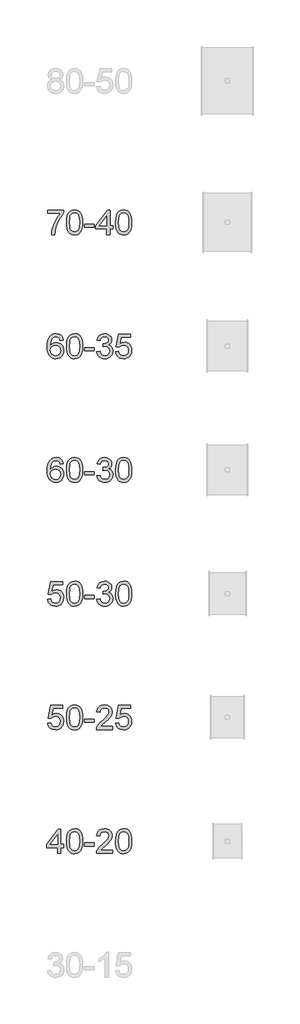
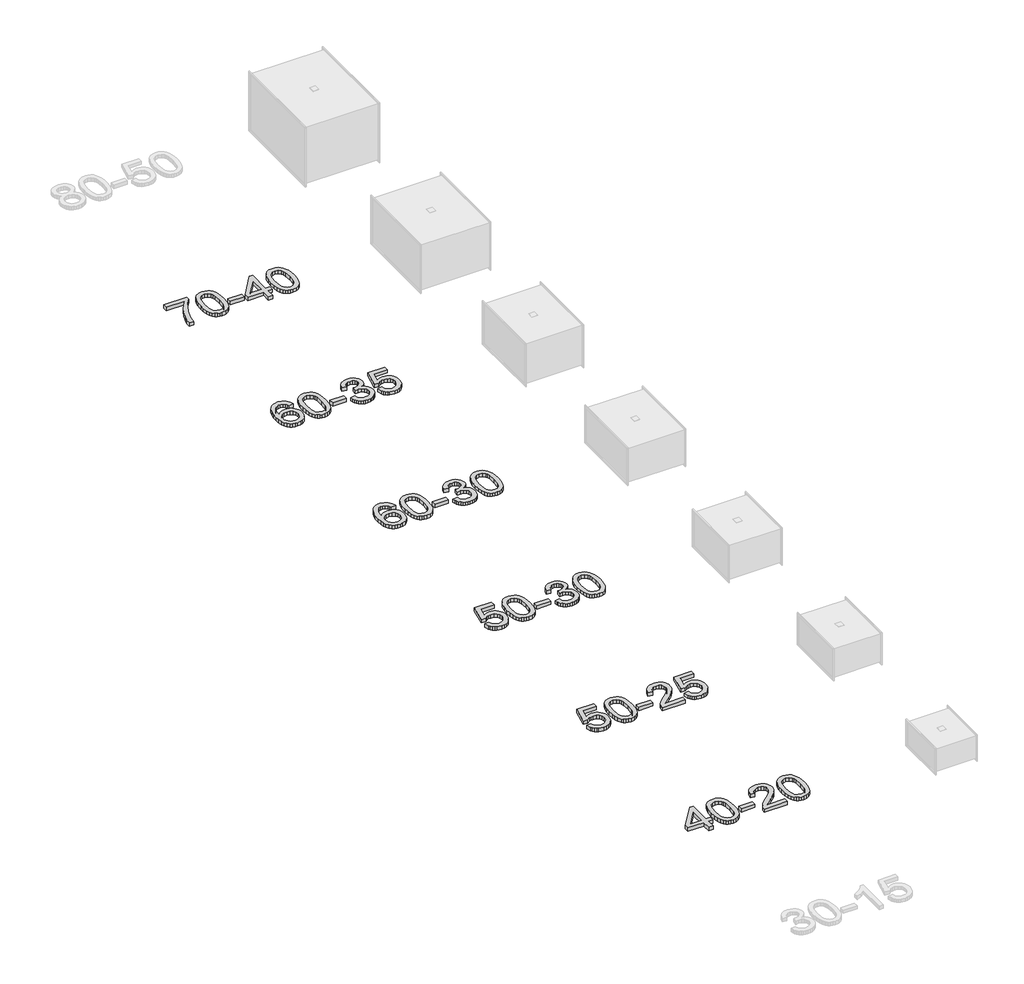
# One storey, part 5 of 9: 6 proxies.
"""IFC4 building model written with IfcOpenShell, lengths in millimetres."""

from ifc_helpers import new_model, si_unit, origin, origin_with_axes, place, context, project, spatial, polyline, outline, extrude, element, save

model = new_model("IFC4")

# Units and contexts
model_context = context("Model", 3, world=origin())
ifc_project = project(units=[si_unit("LENGTHUNIT", "METRE", prefix="MILLI")], contexts=[model_context])

# Site, building, storey
site = spatial("IfcSite", under=ifc_project)
building = spatial("IfcBuilding", under=site)
storey = spatial("IfcBuildingStorey", under=building, Name="KORF_Уровень 1", Elevation=0.0)

# Proxies
placement = place(None, origin())
element("IfcBuildingElementProxy", 1, Name="Текст модели 1", ObjectType="Текст модели 1", at=placement, inside=storey, context=model_context, shape_type="SweptSolid", body=[
    extrude(outline(polyline([(-11660.9256351, -10255.6389201), (-11660.9256351, -10217.9678038), (-11463.1522745, -10217.9678038), (-11463.1522745, -10248.428433), (-11491.3412324, -10284.1037895), (-11519.2542787, -10329.4728365), (-11543.8747813, -10380.3969017), (-11562.1861076, -10432.7373126), (-11571.1624283, -10471.898351), (-11576.1656234, -10514.6278447), (-11613.8367397, -10514.6278447), (-11609.7624466, -10475.7979001), (-11598.8639425, -10429.6471038), (-11581.435533, -10380.7279955), (-11557.7715236, -10333.5931149), (-11530.1435858, -10290.9831828), (-11500.8233908, -10255.6389201), (-11660.9256351, -10255.6389201)])), origin_with_axes(), (0.0, 0.0, 1.0), 30.0),
    extrude(outline(polyline([(-11430.1900477, -10366.3714007), (-11427.4217357, -10318.132874), (-11419.1167996, -10279.6616144), (-11405.358013, -10250.3690105), (-11386.2281493, -10229.6664513), (-11361.5892527, -10217.3607985), (-11331.3033674, -10213.2589143), (-11308.0900135, -10215.6869354), (-11287.3046808, -10222.9709989), (-11269.9222565, -10234.8259962), (-11256.917628, -10250.9668188), (-11247.0951787, -10271.2555108), (-11239.2592922, -10295.5541166), (-11234.1273384, -10326.4102189), (-11232.4166871, -10366.3714007), (-11235.157408, -10414.3340158), (-11243.3795706, -10452.7133049), (-11257.0555837, -10482.0334999), (-11276.1578563, -10502.8188327), (-11300.8519352, -10515.2072589), (-11331.3033674, -10519.3367343), (-11352.0519119, -10517.5433095), (-11370.4460117, -10512.1630353), (-11386.4856667, -10503.1959117), (-11400.1708769, -10490.6419386), (-11413.3042641, -10467.9482181), (-11422.685255, -10439.6718882), (-11428.3138495, -10405.8129491), (-11430.1900477, -10366.3714007)]), holes=[polyline([(-11392.5189314, -10366.2978243), (-11388.1043475, -10425.5544166), (-11382.5861175, -10445.8224153), (-11374.8605956, -10459.8502156), (-11355.1421207, -10476.2117674), (-11331.3033674, -10481.6656179), (-11307.4646141, -10476.1933733), (-11287.7461392, -10459.7766392), (-11280.0206173, -10445.7258463), (-11274.5023873, -10425.4624461), (-11270.0878034, -10366.2978243), (-11274.3552345, -10308.3748041), (-11279.6895235, -10288.1734841), (-11287.157528, -10273.8122907), (-11306.8392147, -10256.6505956), (-11331.7448258, -10250.9300306), (-11355.3260617, -10255.9700139), (-11374.2719844, -10271.0899639), (-11382.2550237, -10286.7249487), (-11387.9571947, -10307.804587), (-11392.5189314, -10366.2978243)])]), origin_with_axes(), (0.0, 0.0, 1.0), 30.0),
    extrude(outline(polyline([(-11208.8722394, -10425.1589435), (-11208.8722394, -10387.4878272), (-11091.1500009, -10387.4878272), (-11091.1500009, -10425.1589435), (-11208.8722394, -10425.1589435)])), origin_with_axes(), (0.0, 0.0, 1.0), 30.0),
    extrude(outline(polyline([(-10935.7566462, -10514.6278447), (-10935.7566462, -10443.9945016), (-11072.3144428, -10443.9945016), (-11072.3144428, -10406.3233853), (-10926.3388671, -10217.9678038), (-10898.0855299, -10217.9678038), (-10898.0855299, -10406.3233853), (-10860.4144136, -10406.3233853), (-10860.4144136, -10443.9945016), (-10898.0855299, -10443.9945016), (-10898.0855299, -10514.6278447), (-10935.7566462, -10514.6278447)]), holes=[polyline([(-10935.7566462, -10406.3233853), (-10935.7566462, -10289.9255221), (-11025.9613114, -10406.3233853), (-10935.7566462, -10406.3233853)])]), origin_with_axes(), (0.0, 0.0, 1.0), 30.0),
    extrude(outline(polyline([(-10827.4521868, -10366.3714007), (-10824.6838748, -10318.132874), (-10816.3789388, -10279.6616144), (-10802.6201521, -10250.3690105), (-10783.4902884, -10229.6664513), (-10758.8513918, -10217.3607985), (-10728.5655065, -10213.2589143), (-10705.3521526, -10215.6869354), (-10684.5668199, -10222.9709989), (-10667.1843956, -10234.8259962), (-10654.1797671, -10250.9668188), (-10644.3573178, -10271.2555108), (-10636.5214313, -10295.5541166), (-10631.3894775, -10326.4102189), (-10629.6788262, -10366.3714007), (-10632.4195471, -10414.3340158), (-10640.6417097, -10452.7133049), (-10654.3177228, -10482.0334999), (-10673.4199954, -10502.8188327), (-10698.1140744, -10515.2072589), (-10728.5655065, -10519.3367343), (-10749.314051, -10517.5433095), (-10767.7081508, -10512.1630353), (-10783.7478058, -10503.1959117), (-10797.433016, -10490.6419386), (-10810.5664032, -10467.9482181), (-10819.9473941, -10439.6718882), (-10825.5759886, -10405.8129491), (-10827.4521868, -10366.3714007)]), holes=[polyline([(-10789.7810705, -10366.2978243), (-10785.3664866, -10425.5544166), (-10779.8482566, -10445.8224153), (-10772.1227347, -10459.8502156), (-10752.4042598, -10476.2117674), (-10728.5655065, -10481.6656179), (-10704.7267532, -10476.1933733), (-10685.0082783, -10459.7766392), (-10677.2827564, -10445.7258463), (-10671.7645264, -10425.4624461), (-10667.3499425, -10366.2978243), (-10671.6173736, -10308.3748041), (-10676.9516626, -10288.1734841), (-10684.4196671, -10273.8122907), (-10704.1013538, -10256.6505956), (-10729.0069649, -10250.9300306), (-10752.5882008, -10255.9700139), (-10771.5341235, -10271.0899639), (-10779.5171628, -10286.7249487), (-10785.2193338, -10307.804587), (-10789.7810705, -10366.2978243)])]), origin_with_axes(), (0.0, 0.0, 1.0), 30.0),
])
element("IfcBuildingElementProxy", 2, Name="Текст модели 1", ObjectType="Текст модели 1", at=placement, inside=storey, context=model_context, shape_type="SweptSolid", body=[
    extrude(outline(polyline([(-11467.861164, -11807.2908439), (-11505.5322803, -11811.9997335), (-11511.6023332, -11793.3297222), (-11519.8061017, -11780.5826111), (-11536.8942204, -11768.8287813), (-11557.5507944, -11764.9108381), (-11575.0619774, -11767.1917064), (-11591.5430908, -11774.0343116), (-11605.6973506, -11788.4460887), (-11617.2580423, -11808.2841253), (-11625.0663376, -11836.3443245), (-11627.9634083, -11875.4225894), (-11612.8526554, -11857.7918448), (-11594.7436641, -11845.3666304), (-11574.6481102, -11837.9997935), (-11553.5776689, -11835.5441811), (-11535.4778747, -11837.2226428), (-11518.7760321, -11842.2580276), (-11503.4721411, -11850.6503356), (-11489.5662017, -11862.3995668), (-11478.0101086, -11876.8067454), (-11469.7557563, -11893.1728957), (-11464.8031449, -11911.4980176), (-11463.1522745, -11931.7821111), (-11466.2608773, -11958.7570584), (-11475.5866859, -11983.763837), (-11490.357148, -12004.972234), (-11509.7997115, -12020.5520365), (-11533.0314595, -12030.1261654), (-11559.1694752, -12033.3175418), (-11581.6263718, -12031.2022203), (-11601.908166, -12024.8562559), (-11620.014858, -12014.2796485), (-11635.9464476, -11999.4723982), (-11648.9349813, -11979.8091056), (-11658.2125054, -11954.6643712), (-11663.7790198, -11924.0381951), (-11665.6345246, -11887.9305773), (-11663.5743854, -11847.4497622), (-11657.3939679, -11812.9010443), (-11647.0932721, -11784.2844236), (-11632.6722978, -11761.5999001), (-11617.0419116, -11746.5673221), (-11598.9191248, -11735.8297664), (-11578.3039375, -11729.3872329), (-11555.1963497, -11727.2397218), (-11522.1421524, -11732.5556166), (-11495.6730428, -11748.5033011), (-11477.1317903, -11773.8319765), (-11467.861164, -11807.2908439)]), holes=[polyline([(-11627.9634083, -11931.1934999), (-11625.7837075, -11947.8861454), (-11619.244605, -11963.8246329), (-11609.091062, -11977.5282372), (-11596.0680393, -11987.5162334), (-11580.3502811, -11993.6138774), (-11562.1125312, -11995.6464254), (-11537.2529053, -11991.4341766), (-11517.7091744, -11978.7974301), (-11505.0448367, -11958.9318023), (-11500.8233908, -11933.0329099), (-11504.9896544, -11908.173284), (-11517.4884452, -11889.2181642), (-11537.3632699, -11877.2160142), (-11563.6576356, -11873.2152975), (-11588.4804732, -11877.2160142), (-11609.2382148, -11889.2181642), (-11623.2821099, -11907.7134316), (-11627.9634083, -11931.1934999)])]), origin_with_axes(), (0.0, 0.0, 1.0), 30.0),
    extrude(outline(polyline([(-11430.1900477, -11880.3522082), (-11427.4217357, -11832.1136815), (-11419.1167996, -11793.6424219), (-11405.358013, -11764.349818), (-11386.2281493, -11743.6472588), (-11361.5892527, -11731.341606), (-11331.3033674, -11727.2397218), (-11308.0900135, -11729.6677429), (-11287.3046808, -11736.9518064), (-11269.9222565, -11748.8068037), (-11256.917628, -11764.9476263), (-11247.0951787, -11785.2363183), (-11239.2592922, -11809.5349241), (-11234.1273384, -11840.3910264), (-11232.4166871, -11880.3522082), (-11235.157408, -11928.3148233), (-11243.3795706, -11966.6941124), (-11257.0555837, -11996.0143074), (-11276.1578563, -12016.7996402), (-11300.8519352, -12029.1880664), (-11331.3033674, -12033.3175418), (-11352.0519119, -12031.524117), (-11370.4460117, -12026.1438428), (-11386.4856667, -12017.1767192), (-11400.1708769, -12004.6227461), (-11413.3042641, -11981.9290256), (-11422.685255, -11953.6526957), (-11428.3138495, -11919.7937566), (-11430.1900477, -11880.3522082)]), holes=[polyline([(-11392.5189314, -11880.2786318), (-11388.1043475, -11939.5352241), (-11382.5861175, -11959.8032228), (-11374.8605956, -11973.8310231), (-11355.1421207, -11990.1925749), (-11331.3033674, -11995.6464254), (-11307.4646141, -11990.1741808), (-11287.7461392, -11973.7574467), (-11280.0206173, -11959.7066538), (-11274.5023873, -11939.4432536), (-11270.0878034, -11880.2786318), (-11274.3552345, -11822.3556116), (-11279.6895235, -11802.1542916), (-11287.157528, -11787.7930982), (-11306.8392147, -11770.6314031), (-11331.7448258, -11764.9108381), (-11355.3260617, -11769.9508214), (-11374.2719844, -11785.0707714), (-11382.2550237, -11800.7057562), (-11387.9571947, -11821.7853945), (-11392.5189314, -11880.2786318)])]), origin_with_axes(), (0.0, 0.0, 1.0), 30.0),
    extrude(outline(polyline([(-11208.8722394, -11939.139751), (-11208.8722394, -11901.4686347), (-11091.1500009, -11901.4686347), (-11091.1500009, -11939.139751), (-11208.8722394, -11939.139751)])), origin_with_axes(), (0.0, 0.0, 1.0), 30.0),
    extrude(outline(polyline([(-11058.1877742, -11948.5575301), (-11020.5166579, -11943.8486405), (-11012.0829631, -11967.5218469), (-10999.7313251, -11983.5063196), (-10982.8547386, -11992.611399), (-10960.8461983, -11995.6464254), (-10935.0208822, -11991.4709648), (-10915.0816781, -11978.9445829), (-10902.3345669, -11960.2561775), (-10898.0855299, -11937.5946466), (-10902.2977787, -11916.0827469), (-10914.9345253, -11898.6359433), (-10934.064389, -11887.0752516), (-10957.7559895, -11883.2216877), (-10984.1699168, -11887.3419661), (-10979.976062, -11849.6708498), (-10973.9427973, -11850.1123082), (-10951.3732369, -11847.4083755), (-10931.1949094, -11839.2965775), (-10916.9578762, -11825.5745791), (-10912.2121985, -11806.0400451), (-10915.6518951, -11789.7704639), (-10925.9709851, -11776.5726973), (-10941.7163345, -11767.8263029), (-10961.4348094, -11764.9108381), (-10981.1900726, -11767.853894), (-10997.3400922, -11776.6830619), (-11009.1307101, -11791.3983417), (-11015.8077683, -11811.9997335), (-11053.4788846, -11807.2908439), (-11042.3872425, -11773.4640945), (-11022.6503734, -11748.2089955), (-10995.647835, -11732.4820402), (-10962.7591846, -11727.2397218), (-10939.0767812, -11729.8240928), (-10917.3257582, -11737.5772058), (-10898.9868408, -11749.8092822), (-10885.5407538, -11765.8305431), (-10877.2910001, -11784.2890222), (-10874.5410822, -11803.8327532), (-10877.1530444, -11822.0429119), (-10884.9889309, -11838.5608135), (-10897.9383771, -11852.6322998), (-10915.8910184, -11863.5032128), (-10892.3097826, -11873.0313565), (-10874.8353878, -11889.2549524), (-10864.0196571, -11911.291084), (-10860.4144136, -11938.2568342), (-10862.2170353, -11957.3683039), (-10867.6249007, -11974.9714573), (-10876.6380096, -11991.0662946), (-10889.256362, -12005.6528157), (-10904.6292309, -12017.7561334), (-10921.9058891, -12026.4013602), (-10941.0863366, -12031.5884964), (-10962.1705734, -12033.3175418), (-10981.2268608, -12031.8414152), (-10998.590891, -12027.4130357), (-11014.262664, -12020.0324032), (-11028.2421798, -12009.6995177), (-11039.9638198, -11997.0213844), (-11048.8619656, -11982.6050087), (-11054.936617, -11966.4503906), (-11058.1877742, -11948.5575301)])), origin_with_axes(), (0.0, 0.0, 1.0), 30.0),
    extrude(outline(polyline([(-10827.4521868, -11948.5575301), (-10789.7810705, -11943.8486405), (-10782.864889, -11966.4641862), (-10770.7983595, -11982.660191), (-10753.6366645, -11992.3998668), (-10731.4349861, -11995.6464254), (-10704.4324476, -11991.130674), (-10684.1989379, -11977.5834195), (-10671.5621913, -11956.5681605), (-10667.3499425, -11929.6483955), (-10671.2954769, -11904.301326), (-10683.1320801, -11884.9139449), (-10702.9517226, -11872.6082922), (-10730.8463749, -11868.5064079), (-10749.120913, -11870.1434828), (-10763.9189662, -11875.0547074), (-10785.072181, -11892.0508556), (-10822.7432973, -11887.3419661), (-10789.7810705, -11731.9486113), (-10643.8054948, -11731.9486113), (-10643.8054948, -11769.6197276), (-10759.3204413, -11769.6197276), (-10775.4336727, -11852.6139057), (-10748.5231047, -11836.2799451), (-10720.3249498, -11830.8352916), (-10701.9791346, -11832.5229503), (-10685.1278399, -11837.5859262), (-10669.7710659, -11846.0242195), (-10655.9088125, -11857.8378301), (-10644.4331935, -11872.3047895), (-10636.2363228, -11888.7031295), (-10631.3182003, -11907.0328499), (-10629.6788262, -11927.2939507), (-10635.5833322, -11964.9650671), (-10642.9639647, -11981.7588801), (-10653.2968503, -11997.1915298), (-10668.9502292, -12012.99666), (-10687.2155702, -12024.2860388), (-10708.0928735, -12031.059666), (-10731.5821389, -12033.3175418), (-10768.5818705, -12027.5142033), (-10784.2605413, -12020.2600302), (-10798.0584154, -12010.1041879), (-10809.5386329, -11997.552514), (-10818.264334, -11983.1108465), (-10827.4521868, -11948.5575301)])), origin_with_axes(), (0.0, 0.0, 1.0), 30.0),
])
element("IfcBuildingElementProxy", 3, Name="Текст модели 1", ObjectType="Текст модели 1", at=placement, inside=storey, context=model_context, shape_type="SweptSolid", body=[
    extrude(outline(polyline([(-11467.861164, -13321.2716514), (-11505.5322803, -13325.980541), (-11511.6023332, -13307.3105297), (-11519.8061017, -13294.5634186), (-11536.8942204, -13282.8095888), (-11557.5507944, -13278.8916456), (-11575.0619774, -13281.1725139), (-11591.5430908, -13288.0151191), (-11605.6973506, -13302.4268962), (-11617.2580423, -13322.2649328), (-11625.0663376, -13350.325132), (-11627.9634083, -13389.4033969), (-11612.8526554, -13371.7726523), (-11594.7436641, -13359.3474379), (-11574.6481102, -13351.980601), (-11553.5776689, -13349.5249886), (-11535.4778747, -13351.2034503), (-11518.7760321, -13356.2388351), (-11503.4721411, -13364.6311431), (-11489.5662017, -13376.3803743), (-11478.0101086, -13390.7875529), (-11469.7557563, -13407.1537032), (-11464.8031449, -13425.4788251), (-11463.1522745, -13445.7629186), (-11466.2608773, -13472.7378659), (-11475.5866859, -13497.7446445), (-11490.357148, -13518.9530415), (-11509.7997115, -13534.532844), (-11533.0314595, -13544.1069729), (-11559.1694752, -13547.2983493), (-11581.6263718, -13545.1830278), (-11601.908166, -13538.8370634), (-11620.014858, -13528.260456), (-11635.9464476, -13513.4532057), (-11648.9349813, -13493.7899131), (-11658.2125054, -13468.6451787), (-11663.7790198, -13438.0190026), (-11665.6345246, -13401.9113848), (-11663.5743854, -13361.4305697), (-11657.3939679, -13326.8818518), (-11647.0932721, -13298.2652311), (-11632.6722978, -13275.5807076), (-11617.0419116, -13260.5481296), (-11598.9191248, -13249.8105739), (-11578.3039375, -13243.3680404), (-11555.1963497, -13241.2205293), (-11522.1421524, -13246.5364241), (-11495.6730428, -13262.4841086), (-11477.1317903, -13287.812784), (-11467.861164, -13321.2716514)]), holes=[polyline([(-11627.9634083, -13445.1743074), (-11625.7837075, -13461.8669529), (-11619.244605, -13477.8054404), (-11609.091062, -13491.5090447), (-11596.0680393, -13501.4970409), (-11580.3502811, -13507.5946849), (-11562.1125312, -13509.6272329), (-11537.2529053, -13505.4149841), (-11517.7091744, -13492.7782376), (-11505.0448367, -13472.9126098), (-11500.8233908, -13447.0137174), (-11504.9896544, -13422.1540915), (-11517.4884452, -13403.1989717), (-11537.3632699, -13391.1968217), (-11563.6576356, -13387.196105), (-11588.4804732, -13391.1968217), (-11609.2382148, -13403.1989717), (-11623.2821099, -13421.6942391), (-11627.9634083, -13445.1743074)])]), origin_with_axes(), (0.0, 0.0, 1.0), 30.0),
    extrude(outline(polyline([(-11430.1900477, -13394.3330157), (-11427.4217357, -13346.094489), (-11419.1167996, -13307.6232294), (-11405.358013, -13278.3306255), (-11386.2281493, -13257.6280663), (-11361.5892527, -13245.3224135), (-11331.3033674, -13241.2205293), (-11308.0900135, -13243.6485504), (-11287.3046808, -13250.9326139), (-11269.9222565, -13262.7876112), (-11256.917628, -13278.9284338), (-11247.0951787, -13299.2171258), (-11239.2592922, -13323.5157316), (-11234.1273384, -13354.3718339), (-11232.4166871, -13394.3330157), (-11235.157408, -13442.2956308), (-11243.3795706, -13480.6749199), (-11257.0555837, -13509.9951149), (-11276.1578563, -13530.7804477), (-11300.8519352, -13543.1688739), (-11331.3033674, -13547.2983493), (-11352.0519119, -13545.5049245), (-11370.4460117, -13540.1246503), (-11386.4856667, -13531.1575267), (-11400.1708769, -13518.6035536), (-11413.3042641, -13495.9098331), (-11422.685255, -13467.6335032), (-11428.3138495, -13433.7745641), (-11430.1900477, -13394.3330157)]), holes=[polyline([(-11392.5189314, -13394.2594393), (-11388.1043475, -13453.5160316), (-11382.5861175, -13473.7840303), (-11374.8605956, -13487.8118306), (-11355.1421207, -13504.1733824), (-11331.3033674, -13509.6272329), (-11307.4646141, -13504.1549883), (-11287.7461392, -13487.7382542), (-11280.0206173, -13473.6874613), (-11274.5023873, -13453.4240611), (-11270.0878034, -13394.2594393), (-11274.3552345, -13336.3364191), (-11279.6895235, -13316.1350991), (-11287.157528, -13301.7739057), (-11306.8392147, -13284.6122106), (-11331.7448258, -13278.8916456), (-11355.3260617, -13283.9316289), (-11374.2719844, -13299.0515789), (-11382.2550237, -13314.6865637), (-11387.9571947, -13335.766202), (-11392.5189314, -13394.2594393)])]), origin_with_axes(), (0.0, 0.0, 1.0), 30.0),
    extrude(outline(polyline([(-11208.8722394, -13453.1205585), (-11208.8722394, -13415.4494422), (-11091.1500009, -13415.4494422), (-11091.1500009, -13453.1205585), (-11208.8722394, -13453.1205585)])), origin_with_axes(), (0.0, 0.0, 1.0), 30.0),
    extrude(outline(polyline([(-11058.1877742, -13462.5383376), (-11020.5166579, -13457.829448), (-11012.0829631, -13481.5026544), (-10999.7313251, -13497.4871271), (-10982.8547386, -13506.5922065), (-10960.8461983, -13509.6272329), (-10935.0208822, -13505.4517723), (-10915.0816781, -13492.9253904), (-10902.3345669, -13474.236985), (-10898.0855299, -13451.5754541), (-10902.2977787, -13430.0635544), (-10914.9345253, -13412.6167508), (-10934.064389, -13401.0560591), (-10957.7559895, -13397.2024952), (-10984.1699168, -13401.3227736), (-10979.976062, -13363.6516573), (-10973.9427973, -13364.0931157), (-10951.3732369, -13361.389183), (-10931.1949094, -13353.277385), (-10916.9578762, -13339.5553866), (-10912.2121985, -13320.0208526), (-10915.6518951, -13303.7512714), (-10925.9709851, -13290.5535048), (-10941.7163345, -13281.8071104), (-10961.4348094, -13278.8916456), (-10981.1900726, -13281.8347015), (-10997.3400922, -13290.6638694), (-11009.1307101, -13305.3791492), (-11015.8077683, -13325.980541), (-11053.4788846, -13321.2716514), (-11042.3872425, -13287.444902), (-11022.6503734, -13262.189803), (-10995.647835, -13246.4628477), (-10962.7591846, -13241.2205293), (-10939.0767812, -13243.8049003), (-10917.3257582, -13251.5580133), (-10898.9868408, -13263.7900897), (-10885.5407538, -13279.8113506), (-10877.2910001, -13298.2698297), (-10874.5410822, -13317.8135607), (-10877.1530444, -13336.0237194), (-10884.9889309, -13352.541621), (-10897.9383771, -13366.6131073), (-10915.8910184, -13377.4840203), (-10892.3097826, -13387.012164), (-10874.8353878, -13403.2357599), (-10864.0196571, -13425.2718915), (-10860.4144136, -13452.2376417), (-10862.2170353, -13471.3491114), (-10867.6249007, -13488.9522648), (-10876.6380096, -13505.0471021), (-10889.256362, -13519.6336232), (-10904.6292309, -13531.7369409), (-10921.9058891, -13540.3821677), (-10941.0863366, -13545.5693039), (-10962.1705734, -13547.2983493), (-10981.2268608, -13545.8222227), (-10998.590891, -13541.3938432), (-11014.262664, -13534.0132107), (-11028.2421798, -13523.6803252), (-11039.9638198, -13511.0021919), (-11048.8619656, -13496.5858162), (-11054.936617, -13480.4311981), (-11058.1877742, -13462.5383376)])), origin_with_axes(), (0.0, 0.0, 1.0), 30.0),
    extrude(outline(polyline([(-10827.4521868, -13394.3330157), (-10824.6838748, -13346.094489), (-10816.3789388, -13307.6232294), (-10802.6201521, -13278.3306255), (-10783.4902884, -13257.6280663), (-10758.8513918, -13245.3224135), (-10728.5655065, -13241.2205293), (-10705.3521526, -13243.6485504), (-10684.5668199, -13250.9326139), (-10667.1843956, -13262.7876112), (-10654.1797671, -13278.9284338), (-10644.3573178, -13299.2171258), (-10636.5214313, -13323.5157316), (-10631.3894775, -13354.3718339), (-10629.6788262, -13394.3330157), (-10632.4195471, -13442.2956308), (-10640.6417097, -13480.6749199), (-10654.3177228, -13509.9951149), (-10673.4199954, -13530.7804477), (-10698.1140744, -13543.1688739), (-10728.5655065, -13547.2983493), (-10749.314051, -13545.5049245), (-10767.7081508, -13540.1246503), (-10783.7478058, -13531.1575267), (-10797.433016, -13518.6035536), (-10810.5664032, -13495.9098331), (-10819.9473941, -13467.6335032), (-10825.5759886, -13433.7745641), (-10827.4521868, -13394.3330157)]), holes=[polyline([(-10789.7810705, -13394.2594393), (-10785.3664866, -13453.5160316), (-10779.8482566, -13473.7840303), (-10772.1227347, -13487.8118306), (-10752.4042598, -13504.1733824), (-10728.5655065, -13509.6272329), (-10704.7267532, -13504.1549883), (-10685.0082783, -13487.7382542), (-10677.2827564, -13473.6874613), (-10671.7645264, -13453.4240611), (-10667.3499425, -13394.2594393), (-10671.6173736, -13336.3364191), (-10676.9516626, -13316.1350991), (-10684.4196671, -13301.7739057), (-10704.1013538, -13284.6122106), (-10729.0069649, -13278.8916456), (-10752.5882008, -13283.9316289), (-10771.5341235, -13299.0515789), (-10779.5171628, -13314.6865637), (-10785.2193338, -13335.766202), (-10789.7810705, -13394.2594393)])]), origin_with_axes(), (0.0, 0.0, 1.0), 30.0),
])
element("IfcBuildingElementProxy", 4, Name="Текст модели 1", ObjectType="Текст модели 1", at=placement, inside=storey, context=model_context, shape_type="SweptSolid", body=[
    extrude(outline(polyline([(-11660.9256351, -14976.5191451), (-11623.2545188, -14971.8102555), (-11616.3383373, -14994.4258012), (-11604.2718078, -15010.621806), (-11587.1101127, -15020.3614818), (-11564.9084343, -15023.6080404), (-11537.9058959, -15019.092289), (-11517.6723862, -15005.5450345), (-11505.0356396, -14984.5297755), (-11500.8233908, -14957.6100105), (-11504.7689252, -14932.262941), (-11516.6055284, -14912.8755599), (-11536.4251709, -14900.5699072), (-11564.3198231, -14896.4680229), (-11582.5943613, -14898.1050978), (-11597.3924145, -14903.0163224), (-11618.5456292, -14920.0124706), (-11656.2167455, -14915.3035811), (-11623.2545188, -14759.9102263), (-11477.2789431, -14759.9102263), (-11477.2789431, -14797.5813426), (-11592.7938896, -14797.5813426), (-11608.907121, -14880.5755207), (-11581.996553, -14864.2415601), (-11553.7983981, -14858.7969066), (-11535.4525828, -14860.4845653), (-11518.6012882, -14865.5475412), (-11503.2445142, -14873.9858345), (-11489.3822607, -14885.7994451), (-11477.9066417, -14900.2664045), (-11469.709771, -14916.6647445), (-11464.7916486, -14934.9944649), (-11463.1522745, -14955.2555657), (-11469.0567805, -14992.9266821), (-11476.437413, -15009.7204951), (-11486.7702986, -15025.1531448), (-11502.4236775, -15040.958275), (-11520.6890185, -15052.2476538), (-11541.5663217, -15059.021281), (-11565.0555871, -15061.2791568), (-11602.0553188, -15055.4758183), (-11617.7339896, -15048.2216452), (-11631.5318637, -15038.0658029), (-11643.0120812, -15025.514129), (-11651.7377822, -15011.0724615), (-11660.9256351, -14976.5191451)])), origin_with_axes(), (0.0, 0.0, 1.0), 30.0),
    extrude(outline(polyline([(-11430.1900477, -14908.3138232), (-11427.4217357, -14860.0752965), (-11419.1167996, -14821.6040369), (-11405.358013, -14792.311433), (-11386.2281493, -14771.6088738), (-11361.5892527, -14759.303221), (-11331.3033674, -14755.2013368), (-11308.0900135, -14757.6293579), (-11287.3046808, -14764.9134214), (-11269.9222565, -14776.7684187), (-11256.917628, -14792.9092413), (-11247.0951787, -14813.1979333), (-11239.2592922, -14837.4965391), (-11234.1273384, -14868.3526414), (-11232.4166871, -14908.3138232), (-11235.157408, -14956.2764383), (-11243.3795706, -14994.6557274), (-11257.0555837, -15023.9759224), (-11276.1578563, -15044.7612552), (-11300.8519352, -15057.1496814), (-11331.3033674, -15061.2791568), (-11352.0519119, -15059.485732), (-11370.4460117, -15054.1054578), (-11386.4856667, -15045.1383342), (-11400.1708769, -15032.5843611), (-11413.3042641, -15009.8906406), (-11422.685255, -14981.6143107), (-11428.3138495, -14947.7553716), (-11430.1900477, -14908.3138232)]), holes=[polyline([(-11392.5189314, -14908.2402468), (-11388.1043475, -14967.4968391), (-11382.5861175, -14987.7648378), (-11374.8605956, -15001.7926381), (-11355.1421207, -15018.1541899), (-11331.3033674, -15023.6080404), (-11307.4646141, -15018.1357958), (-11287.7461392, -15001.7190617), (-11280.0206173, -14987.6682688), (-11274.5023873, -14967.4048686), (-11270.0878034, -14908.2402468), (-11274.3552345, -14850.3172266), (-11279.6895235, -14830.1159066), (-11287.157528, -14815.7547132), (-11306.8392147, -14798.5930181), (-11331.7448258, -14792.8724531), (-11355.3260617, -14797.9124364), (-11374.2719844, -14813.0323864), (-11382.2550237, -14828.6673712), (-11387.9571947, -14849.7470095), (-11392.5189314, -14908.2402468)])]), origin_with_axes(), (0.0, 0.0, 1.0), 30.0),
    extrude(outline(polyline([(-11208.8722394, -14967.101366), (-11208.8722394, -14929.4302497), (-11091.1500009, -14929.4302497), (-11091.1500009, -14967.101366), (-11208.8722394, -14967.101366)])), origin_with_axes(), (0.0, 0.0, 1.0), 30.0),
    extrude(outline(polyline([(-11058.1877742, -14976.5191451), (-11020.5166579, -14971.8102555), (-11012.0829631, -14995.4834619), (-10999.7313251, -15011.4679346), (-10982.8547386, -15020.573014), (-10960.8461983, -15023.6080404), (-10935.0208822, -15019.4325798), (-10915.0816781, -15006.9061979), (-10902.3345669, -14988.2177925), (-10898.0855299, -14965.5562616), (-10902.2977787, -14944.0443619), (-10914.9345253, -14926.5975583), (-10934.064389, -14915.0368666), (-10957.7559895, -14911.1833027), (-10984.1699168, -14915.3035811), (-10979.976062, -14877.6324648), (-10973.9427973, -14878.0739232), (-10951.3732369, -14875.3699905), (-10931.1949094, -14867.2581925), (-10916.9578762, -14853.5361941), (-10912.2121985, -14834.0016601), (-10915.6518951, -14817.7320789), (-10925.9709851, -14804.5343123), (-10941.7163345, -14795.7879179), (-10961.4348094, -14792.8724531), (-10981.1900726, -14795.815509), (-10997.3400922, -14804.6446769), (-11009.1307101, -14819.3599567), (-11015.8077683, -14839.9613485), (-11053.4788846, -14835.2524589), (-11042.3872425, -14801.4257095), (-11022.6503734, -14776.1706105), (-10995.647835, -14760.4436552), (-10962.7591846, -14755.2013368), (-10939.0767812, -14757.7857078), (-10917.3257582, -14765.5388208), (-10898.9868408, -14777.7708972), (-10885.5407538, -14793.7921581), (-10877.2910001, -14812.2506372), (-10874.5410822, -14831.7943682), (-10877.1530444, -14850.0045269), (-10884.9889309, -14866.5224285), (-10897.9383771, -14880.5939148), (-10915.8910184, -14891.4648278), (-10892.3097826, -14900.9929715), (-10874.8353878, -14917.2165674), (-10864.0196571, -14939.252699), (-10860.4144136, -14966.2184492), (-10862.2170353, -14985.3299189), (-10867.6249007, -15002.9330723), (-10876.6380096, -15019.0279096), (-10889.256362, -15033.6144307), (-10904.6292309, -15045.7177484), (-10921.9058891, -15054.3629752), (-10941.0863366, -15059.5501114), (-10962.1705734, -15061.2791568), (-10981.2268608, -15059.8030302), (-10998.590891, -15055.3746507), (-11014.262664, -15047.9940182), (-11028.2421798, -15037.6611327), (-11039.9638198, -15024.9829994), (-11048.8619656, -15010.5666237), (-11054.936617, -14994.4120056), (-11058.1877742, -14976.5191451)])), origin_with_axes(), (0.0, 0.0, 1.0), 30.0),
    extrude(outline(polyline([(-10827.4521868, -14908.3138232), (-10824.6838748, -14860.0752965), (-10816.3789388, -14821.6040369), (-10802.6201521, -14792.311433), (-10783.4902884, -14771.6088738), (-10758.8513918, -14759.303221), (-10728.5655065, -14755.2013368), (-10705.3521526, -14757.6293579), (-10684.5668199, -14764.9134214), (-10667.1843956, -14776.7684187), (-10654.1797671, -14792.9092413), (-10644.3573178, -14813.1979333), (-10636.5214313, -14837.4965391), (-10631.3894775, -14868.3526414), (-10629.6788262, -14908.3138232), (-10632.4195471, -14956.2764383), (-10640.6417097, -14994.6557274), (-10654.3177228, -15023.9759224), (-10673.4199954, -15044.7612552), (-10698.1140744, -15057.1496814), (-10728.5655065, -15061.2791568), (-10749.314051, -15059.485732), (-10767.7081508, -15054.1054578), (-10783.7478058, -15045.1383342), (-10797.433016, -15032.5843611), (-10810.5664032, -15009.8906406), (-10819.9473941, -14981.6143107), (-10825.5759886, -14947.7553716), (-10827.4521868, -14908.3138232)]), holes=[polyline([(-10789.7810705, -14908.2402468), (-10785.3664866, -14967.4968391), (-10779.8482566, -14987.7648378), (-10772.1227347, -15001.7926381), (-10752.4042598, -15018.1541899), (-10728.5655065, -15023.6080404), (-10704.7267532, -15018.1357958), (-10685.0082783, -15001.7190617), (-10677.2827564, -14987.6682688), (-10671.7645264, -14967.4048686), (-10667.3499425, -14908.2402468), (-10671.6173736, -14850.3172266), (-10676.9516626, -14830.1159066), (-10684.4196671, -14815.7547132), (-10704.1013538, -14798.5930181), (-10729.0069649, -14792.8724531), (-10752.5882008, -14797.9124364), (-10771.5341235, -14813.0323864), (-10779.5171628, -14828.6673712), (-10785.2193338, -14849.7470095), (-10789.7810705, -14908.2402468)])]), origin_with_axes(), (0.0, 0.0, 1.0), 30.0),
])
element("IfcBuildingElementProxy", 5, Name="Текст модели 1", ObjectType="Текст модели 1", at=placement, inside=storey, context=model_context, shape_type="SweptSolid", body=[
    extrude(outline(polyline([(-11660.9256351, -16490.4999526), (-11623.2545188, -16485.791063), (-11616.3383373, -16508.4066087), (-11604.2718078, -16524.6026135), (-11587.1101127, -16534.3422893), (-11564.9084343, -16537.5888479), (-11537.9058959, -16533.0730965), (-11517.6723862, -16519.525842), (-11505.0356396, -16498.510583), (-11500.8233908, -16471.590818), (-11504.7689252, -16446.2437485), (-11516.6055284, -16426.8563674), (-11536.4251709, -16414.5507147), (-11564.3198231, -16410.4488304), (-11582.5943613, -16412.0859053), (-11597.3924145, -16416.9971299), (-11618.5456292, -16433.9932781), (-11656.2167455, -16429.2843886), (-11623.2545188, -16273.8910338), (-11477.2789431, -16273.8910338), (-11477.2789431, -16311.5621501), (-11592.7938896, -16311.5621501), (-11608.907121, -16394.5563282), (-11581.996553, -16378.2223676), (-11553.7983981, -16372.7777141), (-11535.4525828, -16374.4653728), (-11518.6012882, -16379.5283487), (-11503.2445142, -16387.966642), (-11489.3822607, -16399.7802526), (-11477.9066417, -16414.247212), (-11469.709771, -16430.645552), (-11464.7916486, -16448.9752724), (-11463.1522745, -16469.2363732), (-11469.0567805, -16506.9074896), (-11476.437413, -16523.7013026), (-11486.7702986, -16539.1339523), (-11502.4236775, -16554.9390825), (-11520.6890185, -16566.2284613), (-11541.5663217, -16573.0020885), (-11565.0555871, -16575.2599643), (-11602.0553188, -16569.4566258), (-11617.7339896, -16562.2024527), (-11631.5318637, -16552.0466104), (-11643.0120812, -16539.4949365), (-11651.7377822, -16525.053269), (-11660.9256351, -16490.4999526)])), origin_with_axes(), (0.0, 0.0, 1.0), 30.0),
    extrude(outline(polyline([(-11430.1900477, -16422.2946307), (-11427.4217357, -16374.056104), (-11419.1167996, -16335.5848444), (-11405.358013, -16306.2922405), (-11386.2281493, -16285.5896813), (-11361.5892527, -16273.2840285), (-11331.3033674, -16269.1821443), (-11308.0900135, -16271.6101654), (-11287.3046808, -16278.8942289), (-11269.9222565, -16290.7492262), (-11256.917628, -16306.8900488), (-11247.0951787, -16327.1787408), (-11239.2592922, -16351.4773466), (-11234.1273384, -16382.3334489), (-11232.4166871, -16422.2946307), (-11235.157408, -16470.2572458), (-11243.3795706, -16508.6365349), (-11257.0555837, -16537.9567299), (-11276.1578563, -16558.7420627), (-11300.8519352, -16571.1304889), (-11331.3033674, -16575.2599643), (-11352.0519119, -16573.4665395), (-11370.4460117, -16568.0862653), (-11386.4856667, -16559.1191417), (-11400.1708769, -16546.5651686), (-11413.3042641, -16523.8714481), (-11422.685255, -16495.5951182), (-11428.3138495, -16461.7361791), (-11430.1900477, -16422.2946307)]), holes=[polyline([(-11392.5189314, -16422.2210543), (-11388.1043475, -16481.4776466), (-11382.5861175, -16501.7456453), (-11374.8605956, -16515.7734456), (-11355.1421207, -16532.1349974), (-11331.3033674, -16537.5888479), (-11307.4646141, -16532.1166033), (-11287.7461392, -16515.6998692), (-11280.0206173, -16501.6490763), (-11274.5023873, -16481.3856761), (-11270.0878034, -16422.2210543), (-11274.3552345, -16364.2980341), (-11279.6895235, -16344.0967141), (-11287.157528, -16329.7355207), (-11306.8392147, -16312.5738256), (-11331.7448258, -16306.8532606), (-11355.3260617, -16311.8932439), (-11374.2719844, -16327.0131939), (-11382.2550237, -16342.6481787), (-11387.9571947, -16363.727817), (-11392.5189314, -16422.2210543)])]), origin_with_axes(), (0.0, 0.0, 1.0), 30.0),
    extrude(outline(polyline([(-11208.8722394, -16481.0821735), (-11208.8722394, -16443.4110572), (-11091.1500009, -16443.4110572), (-11091.1500009, -16481.0821735), (-11208.8722394, -16481.0821735)])), origin_with_axes(), (0.0, 0.0, 1.0), 30.0),
    extrude(outline(polyline([(-10865.1233031, -16532.8799584), (-10865.1233031, -16570.5510747), (-11062.8966637, -16570.5510747), (-11058.8499618, -16544.5786059), (-11049.5609414, -16524.2807168), (-11035.9677017, -16504.589833), (-11016.304409, -16483.9792442), (-10988.8052299, -16460.9222402), (-10948.1542694, -16424.8146223), (-10923.7636931, -16398.1615718), (-10911.568405, -16376.5301105), (-10907.503309, -16355.4872603), (-10911.3384788, -16336.624111), (-10922.8439882, -16320.943141), (-10940.5299151, -16310.3757307), (-10962.9063374, -16306.8532606), (-10986.4047999, -16310.2929572), (-11004.6609439, -16320.6120472), (-11016.4423648, -16337.0011901), (-11020.5166579, -16358.6510455), (-11058.1877742, -16353.942156), (-11049.0551036, -16317.5034443), (-11040.508745, -16302.967507), (-11029.3090376, -16290.887182), (-11015.7134986, -16281.391228), (-10999.9796455, -16274.6084037), (-10962.096997, -16269.1821443), (-10941.9071733, -16270.6904604), (-10923.9384371, -16275.215409), (-10908.1907884, -16282.7569899), (-10894.6642273, -16293.3152032), (-10883.8002122, -16306.1082995), (-10876.0402013, -16320.3545298), (-10871.3841948, -16336.0538939), (-10869.8321926, -16353.206392), (-10871.5060557, -16371.2234127), (-10876.527645, -16388.9277337), (-10885.4395863, -16406.9355574), (-10898.7845057, -16425.863086), (-10920.057282, -16448.4602376), (-10952.7527944, -16477.4769299), (-10996.0892934, -16513.7133065), (-11013.0854416, -16532.8799584), (-10865.1233031, -16532.8799584)])), origin_with_axes(), (0.0, 0.0, 1.0), 30.0),
    extrude(outline(polyline([(-10827.4521868, -16490.4999526), (-10789.7810705, -16485.791063), (-10782.864889, -16508.4066087), (-10770.7983595, -16524.6026135), (-10753.6366645, -16534.3422893), (-10731.4349861, -16537.5888479), (-10704.4324476, -16533.0730965), (-10684.1989379, -16519.525842), (-10671.5621913, -16498.510583), (-10667.3499425, -16471.590818), (-10671.2954769, -16446.2437485), (-10683.1320801, -16426.8563674), (-10702.9517226, -16414.5507147), (-10730.8463749, -16410.4488304), (-10749.120913, -16412.0859053), (-10763.9189662, -16416.9971299), (-10785.072181, -16433.9932781), (-10822.7432973, -16429.2843886), (-10789.7810705, -16273.8910338), (-10643.8054948, -16273.8910338), (-10643.8054948, -16311.5621501), (-10759.3204413, -16311.5621501), (-10775.4336727, -16394.5563282), (-10748.5231047, -16378.2223676), (-10720.3249498, -16372.7777141), (-10701.9791346, -16374.4653728), (-10685.1278399, -16379.5283487), (-10669.7710659, -16387.966642), (-10655.9088125, -16399.7802526), (-10644.4331935, -16414.247212), (-10636.2363228, -16430.645552), (-10631.3182003, -16448.9752724), (-10629.6788262, -16469.2363732), (-10635.5833322, -16506.9074896), (-10642.9639647, -16523.7013026), (-10653.2968503, -16539.1339523), (-10668.9502292, -16554.9390825), (-10687.2155702, -16566.2284613), (-10708.0928735, -16573.0020885), (-10731.5821389, -16575.2599643), (-10768.5818705, -16569.4566258), (-10784.2605413, -16562.2024527), (-10798.0584154, -16552.0466104), (-10809.5386329, -16539.4949365), (-10818.264334, -16525.053269), (-10827.4521868, -16490.4999526)])), origin_with_axes(), (0.0, 0.0, 1.0), 30.0),
])
element("IfcBuildingElementProxy", 6, Name="Текст модели 1", ObjectType="Текст модели 1", at=placement, inside=storey, context=model_context, shape_type="SweptSolid", body=[
    extrude(outline(polyline([(-11538.4945071, -18084.5318822), (-11538.4945071, -18013.8985391), (-11675.0523037, -18013.8985391), (-11675.0523037, -17976.2274228), (-11529.076728, -17787.8718413), (-11500.8233908, -17787.8718413), (-11500.8233908, -17976.2274228), (-11463.1522745, -17976.2274228), (-11463.1522745, -18013.8985391), (-11500.8233908, -18013.8985391), (-11500.8233908, -18084.5318822), (-11538.4945071, -18084.5318822)]), holes=[polyline([(-11538.4945071, -17976.2274228), (-11538.4945071, -17859.8295596), (-11628.6991723, -17976.2274228), (-11538.4945071, -17976.2274228)])]), origin_with_axes(), (0.0, 0.0, 1.0), 30.0),
    extrude(outline(polyline([(-11430.1900477, -17936.2754382), (-11427.4217357, -17888.0369115), (-11419.1167996, -17849.5656519), (-11405.358013, -17820.273048), (-11386.2281493, -17799.5704888), (-11361.5892527, -17787.264836), (-11331.3033674, -17783.1629518), (-11308.0900135, -17785.5909729), (-11287.3046808, -17792.8750364), (-11269.9222565, -17804.7300337), (-11256.917628, -17820.8708563), (-11247.0951787, -17841.1595483), (-11239.2592922, -17865.4581541), (-11234.1273384, -17896.3142564), (-11232.4166871, -17936.2754382), (-11235.157408, -17984.2380533), (-11243.3795706, -18022.6173424), (-11257.0555837, -18051.9375374), (-11276.1578563, -18072.7228702), (-11300.8519352, -18085.1112964), (-11331.3033674, -18089.2407718), (-11352.0519119, -18087.447347), (-11370.4460117, -18082.0670728), (-11386.4856667, -18073.0999492), (-11400.1708769, -18060.5459761), (-11413.3042641, -18037.8522556), (-11422.685255, -18009.5759257), (-11428.3138495, -17975.7169866), (-11430.1900477, -17936.2754382)]), holes=[polyline([(-11392.5189314, -17936.2018618), (-11388.1043475, -17995.4584541), (-11382.5861175, -18015.7264528), (-11374.8605956, -18029.7542531), (-11355.1421207, -18046.1158049), (-11331.3033674, -18051.5696554), (-11307.4646141, -18046.0974108), (-11287.7461392, -18029.6806767), (-11280.0206173, -18015.6298838), (-11274.5023873, -17995.3664836), (-11270.0878034, -17936.2018618), (-11274.3552345, -17878.2788416), (-11279.6895235, -17858.0775216), (-11287.157528, -17843.7163282), (-11306.8392147, -17826.5546331), (-11331.7448258, -17820.8340681), (-11355.3260617, -17825.8740514), (-11374.2719844, -17840.9940014), (-11382.2550237, -17856.6289862), (-11387.9571947, -17877.7086245), (-11392.5189314, -17936.2018618)])]), origin_with_axes(), (0.0, 0.0, 1.0), 30.0),
    extrude(outline(polyline([(-11208.8722394, -17995.062981), (-11208.8722394, -17957.3918647), (-11091.1500009, -17957.3918647), (-11091.1500009, -17995.062981), (-11208.8722394, -17995.062981)])), origin_with_axes(), (0.0, 0.0, 1.0), 30.0),
    extrude(outline(polyline([(-10865.1233031, -18046.8607659), (-10865.1233031, -18084.5318822), (-11062.8966637, -18084.5318822), (-11058.8499618, -18058.5594134), (-11049.5609414, -18038.2615243), (-11035.9677017, -18018.5706405), (-11016.304409, -17997.9600517), (-10988.8052299, -17974.9030477), (-10948.1542694, -17938.7954298), (-10923.7636931, -17912.1423793), (-10911.568405, -17890.510918), (-10907.503309, -17869.4680678), (-10911.3384788, -17850.6049185), (-10922.8439882, -17834.9239485), (-10940.5299151, -17824.3565382), (-10962.9063374, -17820.8340681), (-10986.4047999, -17824.2737647), (-11004.6609439, -17834.5928547), (-11016.4423648, -17850.9819976), (-11020.5166579, -17872.631853), (-11058.1877742, -17867.9229635), (-11049.0551036, -17831.4842518), (-11040.508745, -17816.9483145), (-11029.3090376, -17804.8679895), (-11015.7134986, -17795.3720355), (-10999.9796455, -17788.5892112), (-10962.096997, -17783.1629518), (-10941.9071733, -17784.6712679), (-10923.9384371, -17789.1962165), (-10908.1907884, -17796.7377974), (-10894.6642273, -17807.2960107), (-10883.8002122, -17820.089107), (-10876.0402013, -17834.3353373), (-10871.3841948, -17850.0347014), (-10869.8321926, -17867.1871995), (-10871.5060557, -17885.2042202), (-10876.527645, -17902.9085412), (-10885.4395863, -17920.9163649), (-10898.7845057, -17939.8438935), (-10920.057282, -17962.4410451), (-10952.7527944, -17991.4577374), (-10996.0892934, -18027.694114), (-11013.0854416, -18046.8607659), (-10865.1233031, -18046.8607659)])), origin_with_axes(), (0.0, 0.0, 1.0), 30.0),
    extrude(outline(polyline([(-10827.4521868, -17936.2754382), (-10824.6838748, -17888.0369115), (-10816.3789388, -17849.5656519), (-10802.6201521, -17820.273048), (-10783.4902884, -17799.5704888), (-10758.8513918, -17787.264836), (-10728.5655065, -17783.1629518), (-10705.3521526, -17785.5909729), (-10684.5668199, -17792.8750364), (-10667.1843956, -17804.7300337), (-10654.1797671, -17820.8708563), (-10644.3573178, -17841.1595483), (-10636.5214313, -17865.4581541), (-10631.3894775, -17896.3142564), (-10629.6788262, -17936.2754382), (-10632.4195471, -17984.2380533), (-10640.6417097, -18022.6173424), (-10654.3177228, -18051.9375374), (-10673.4199954, -18072.7228702), (-10698.1140744, -18085.1112964), (-10728.5655065, -18089.2407718), (-10749.314051, -18087.447347), (-10767.7081508, -18082.0670728), (-10783.7478058, -18073.0999492), (-10797.433016, -18060.5459761), (-10810.5664032, -18037.8522556), (-10819.9473941, -18009.5759257), (-10825.5759886, -17975.7169866), (-10827.4521868, -17936.2754382)]), holes=[polyline([(-10789.7810705, -17936.2018618), (-10785.3664866, -17995.4584541), (-10779.8482566, -18015.7264528), (-10772.1227347, -18029.7542531), (-10752.4042598, -18046.1158049), (-10728.5655065, -18051.5696554), (-10704.7267532, -18046.0974108), (-10685.0082783, -18029.6806767), (-10677.2827564, -18015.6298838), (-10671.7645264, -17995.3664836), (-10667.3499425, -17936.2018618), (-10671.6173736, -17878.2788416), (-10676.9516626, -17858.0775216), (-10684.4196671, -17843.7163282), (-10704.1013538, -17826.5546331), (-10729.0069649, -17820.8340681), (-10752.5882008, -17825.8740514), (-10771.5341235, -17840.9940014), (-10779.5171628, -17856.6289862), (-10785.2193338, -17877.7086245), (-10789.7810705, -17936.2018618)])]), origin_with_axes(), (0.0, 0.0, 1.0), 30.0),
])

save(model, "model.ifc")
